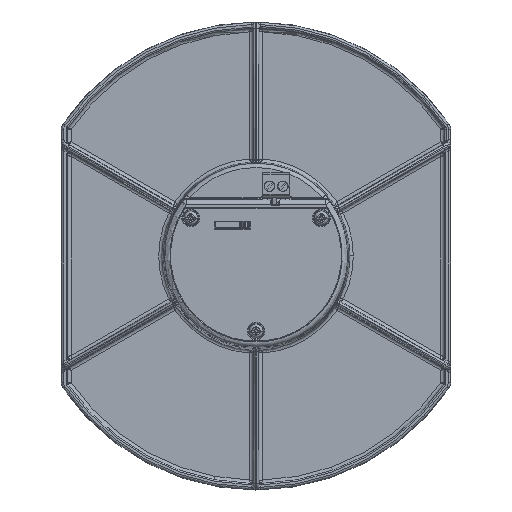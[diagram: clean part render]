
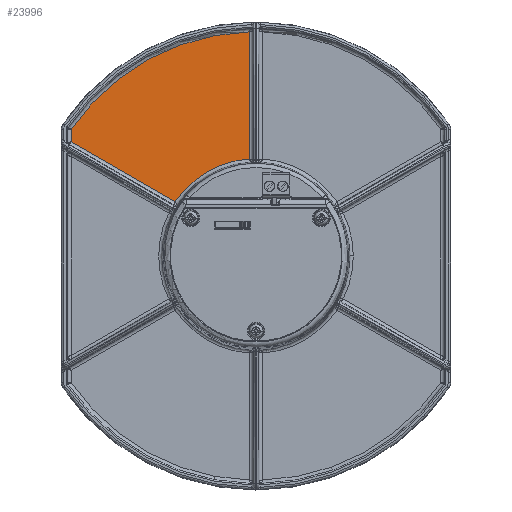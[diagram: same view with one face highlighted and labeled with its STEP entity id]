
A CAD part, top view. The second image highlights one B-rep face of the part: STEP entity #23996.
In plain terms, the highlighted planar face has unit normal (0, 0, 1).
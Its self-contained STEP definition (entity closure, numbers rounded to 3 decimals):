
#1091=CARTESIAN_POINT('',(-30.733,20.526,2.54));
#1346=CARTESIAN_POINT('',(-2.409,36.879,2.54));
#1370=DIRECTION('',(0.,-1.,0.));
#1371=VECTOR('',#1370,48.26);
#1372=CARTESIAN_POINT('',(-2.409,85.139,2.54));
#1373=LINE('',#1372,#1371);
#1386=CARTESIAN_POINT('',(-2.409,85.139,2.54));
#1668=CARTESIAN_POINT('',(0.,0.,2.54));
#1669=DIRECTION('',(0.,0.,1.));
#1670=DIRECTION('',(-0.028,1.,0.));
#1671=AXIS2_PLACEMENT_3D('',#1668,#1669,#1670);
#1673=CARTESIAN_POINT('',(0.,0.,2.54));
#1674=DIRECTION('',(0.,0.,-1.));
#1675=DIRECTION('',(-0.832,0.555,0.));
#1676=AXIS2_PLACEMENT_3D('',#1673,#1674,#1675);
#1678=DIRECTION('',(0.866,-0.5,0.));
#1679=VECTOR('',#1678,45.656);
#1680=CARTESIAN_POINT('',(-70.273,43.354,2.54));
#1681=LINE('',#1680,#1679);
#1682=DIRECTION('',(0.,1.,0.));
#1683=VECTOR('',#1682,4.773);
#1684=CARTESIAN_POINT('',(-70.273,43.354,2.54));
#1685=LINE('',#1684,#1683);
#17971=VERTEX_POINT('',#1346);
#18085=CARTESIAN_POINT('',(-70.273,43.354,2.54));
#18086=CARTESIAN_POINT('',(-70.273,48.126,2.54));
#18087=VERTEX_POINT('',#18085);
#18088=VERTEX_POINT('',#18086);
#18619=VERTEX_POINT('',#1091);
#19093=VERTEX_POINT('',#1386);
#23982=CARTESIAN_POINT('',(0.,0.,2.54));
#23983=DIRECTION('',(0.,0.,1.));
#23984=DIRECTION('',(1.,0.,0.));
#23985=AXIS2_PLACEMENT_3D('',#23982,#23983,#23984);
#23986=PLANE('',#23985);
#23988=ORIENTED_EDGE('',*,*,#23987,.T.);
#23989=ORIENTED_EDGE('',*,*,#23968,.F.);
#23990=ORIENTED_EDGE('',*,*,#23334,.T.);
#23991=ORIENTED_EDGE('',*,*,#22420,.F.);
#23993=ORIENTED_EDGE('',*,*,#23992,.F.);
#23994=EDGE_LOOP('',(#23988,#23989,#23990,#23991,#23993));
#23995=FACE_OUTER_BOUND('',#23994,.F.);
#1672=CIRCLE('',#1671,85.173);
#1677=CIRCLE('',#1676,36.957);
#22420=EDGE_CURVE('',#18619,#17971,#1677,.T.);
#23334=EDGE_CURVE('',#19093,#17971,#1373,.T.);
#23968=EDGE_CURVE('',#19093,#18088,#1672,.T.);
#23987=EDGE_CURVE('',#18087,#18088,#1685,.T.);
#23992=EDGE_CURVE('',#18087,#18619,#1681,.T.);
#23996=ADVANCED_FACE('',(#23995),#23986,.T.);
